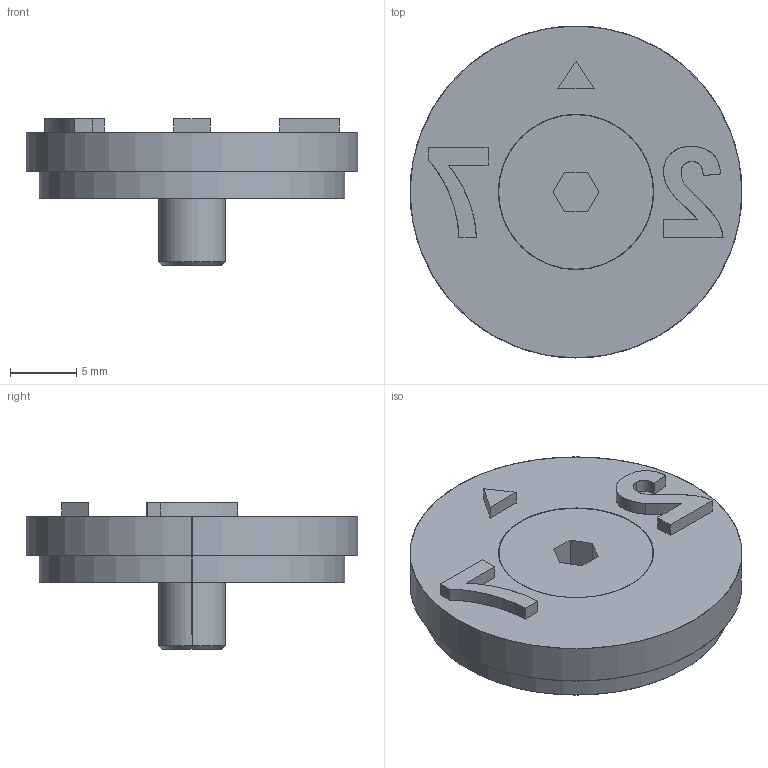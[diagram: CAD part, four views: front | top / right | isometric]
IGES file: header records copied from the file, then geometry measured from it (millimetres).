
Start section: SolidWorks IGES file using analytic representation for surfaces
Global section: file name: C:\temp\GO\Files\DLBRP40-27.igs; native system: SolidWorks 2023; preprocessor: SolidWorks 2023; author: andrew.sweeney; date: 260123.150148; units: millimetre
Bounding box: 25 x 25 x 11.02 mm (x, y, z)
Surface area: 1828.6 mm2 (no closed solid volume)
Topology: 0 solids, 0 shells, 53 faces, 731 edges, 731 vertices
Faces by surface type: bspline 39, revolution 14
